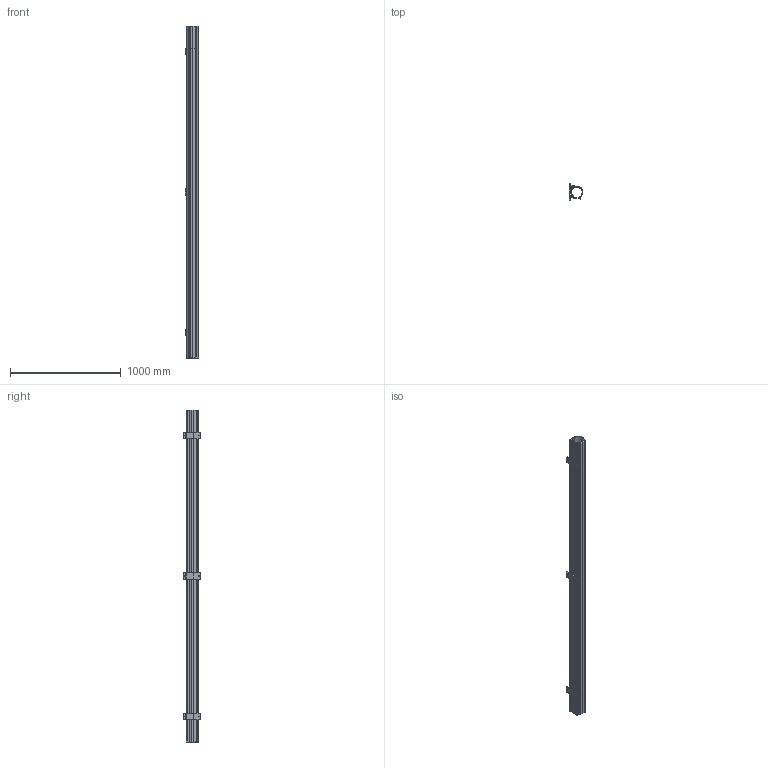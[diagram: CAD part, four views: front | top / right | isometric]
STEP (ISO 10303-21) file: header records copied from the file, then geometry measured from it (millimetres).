
FILE_DESCRIPTION(/* description */ (''),/* implementation_level */ '2;1');
FILE_NAME(/* name */ 'LA_8003_40XX_01.stp',/* time_stamp */ '2015-02-11T14:11:37+00:00',/* author */ (''),/* organization */ (''),/* preprocessor_version */ 'ST-DEVELOPER v11',/* originating_system */ 'SIEMENS PLM Software NX 7.5',/* authorisation */ '');
FILE_SCHEMA (('AUTOMOTIVE_DESIGN { 1 0 10303 214 1 1 1 1 }'));
Length unit declared in the file: millimetre
Products named in the file (6): T-92350-P303-02_A; T-92350-P105-01_A; T-92350-P115-02_A; T-92350-P103-02_A; T-92350-P114-02_A; LA-8003-40XX-01_A
Assembly tree (10 placements, depth 2):
  LA-8003-40XX-01_A
    T-92350-P114-02_A
    T-92350-P103-02_A  x3
    T-92350-P115-02_A
    T-92350-P105-01_A  x3
    T-92350-P303-02_A  x2
Bounding box: 120.91 x 156 x 3000 mm (x, y, z)
Volume: 7270459.5 mm3; surface area: 3372734.2 mm2
Topology: 10 solids, 16 shells, 441 faces, 1268 edges, 866 vertices
Faces by surface type: plane 262, cylinder 179
Full cylindrical faces by diameter (mm): 15.6 x1
Entity records: 7917 total; most frequent: CARTESIAN_POINT 1364, DIRECTION 1361, ORIENTED_EDGE 1320, EDGE_CURVE 664, LINE 463, VECTOR 463, AXIS2_PLACEMENT_3D 449, VERTEX_POINT 446
